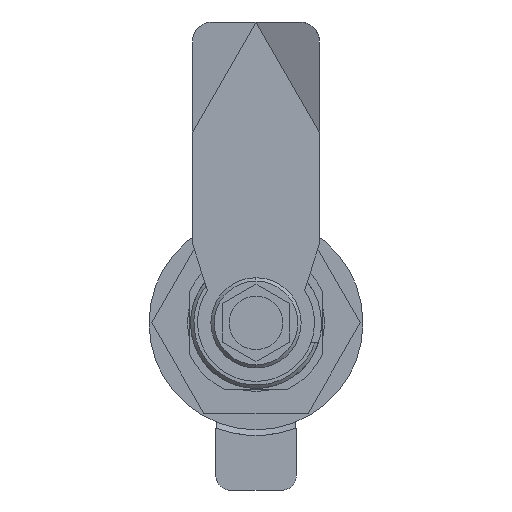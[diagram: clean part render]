
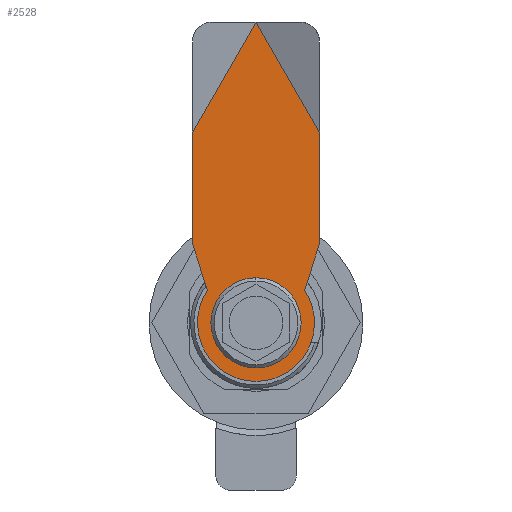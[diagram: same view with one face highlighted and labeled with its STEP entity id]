
A CAD part, front view. The second image highlights one B-rep face of the part: STEP entity #2528.
In plain terms, the highlighted planar face has unit normal (0, -1, 0).
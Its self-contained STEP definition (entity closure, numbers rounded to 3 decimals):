
#86 = CARTESIAN_POINT ( 'NONE',  ( 0., 0., 0. ) ) ;
#217 = EDGE_CURVE ( 'NONE', #2714, #1049, #5584, .T. ) ;
#226 = VECTOR ( 'NONE', #5003, 1000. ) ;
#251 = CARTESIAN_POINT ( 'NONE',  ( -28.546, 0., 9.5 ) ) ;
#266 = VECTOR ( 'NONE', #1517, 1000. ) ;
#276 = DIRECTION ( 'NONE',  ( 0., 0., -1. ) ) ;
#385 = DIRECTION ( 'NONE',  ( 0., 0., 1. ) ) ;
#493 = DIRECTION ( 'NONE',  ( 0., 0., 1. ) ) ;
#504 = CIRCLE ( 'NONE', #1432, 8.75 ) ;
#580 = ORIENTED_EDGE ( 'NONE', *, *, #4797, .T. ) ;
#606 = EDGE_LOOP ( 'NONE', ( #5712, #1058, #2120, #3125 ) ) ;
#641 = ORIENTED_EDGE ( 'NONE', *, *, #3807, .T. ) ;
#713 = ORIENTED_EDGE ( 'NONE', *, *, #4971, .F. ) ;
#722 = VERTEX_POINT ( 'NONE', #1712 ) ;
#725 = AXIS2_PLACEMENT_3D ( 'NONE', #932, #2749, #493 ) ;
#778 = DIRECTION ( 'NONE',  ( 0., 1., 0. ) ) ;
#787 = VERTEX_POINT ( 'NONE', #1027 ) ;
#826 = DIRECTION ( 'NONE',  ( 0., 1., 0. ) ) ;
#830 = CARTESIAN_POINT ( 'NONE',  ( -28.546, 0., -9.5 ) ) ;
#837 = ORIENTED_EDGE ( 'NONE', *, *, #1214, .F. ) ;
#850 = EDGE_CURVE ( 'NONE', #3450, #2714, #5035, .T. ) ;
#861 = DIRECTION ( 'NONE',  ( 0., 0., 1. ) ) ;
#892 = DIRECTION ( 'NONE',  ( 1., 0., 0. ) ) ;
#932 = CARTESIAN_POINT ( 'NONE',  ( 0., 0., 0. ) ) ;
#1007 = CARTESIAN_POINT ( 'NONE',  ( -12.75, 0., 9.5 ) ) ;
#1027 = CARTESIAN_POINT ( 'NONE',  ( 0., 0., -8.75 ) ) ;
#1049 = VERTEX_POINT ( 'NONE', #3026 ) ;
#1054 = CARTESIAN_POINT ( 'NONE',  ( 4., 0., -4. ) ) ;
#1058 = ORIENTED_EDGE ( 'NONE', *, *, #1565, .T. ) ;
#1081 = CARTESIAN_POINT ( 'NONE',  ( -4., 0., -4. ) ) ;
#1107 = EDGE_CURVE ( 'NONE', #3738, #722, #3582, .T. ) ;
#1175 = CARTESIAN_POINT ( 'NONE',  ( 0., 0., 8.75 ) ) ;
#1183 = EDGE_CURVE ( 'NONE', #722, #1931, #2341, .T. ) ;
#1214 = EDGE_CURVE ( 'NONE', #3705, #4836, #504, .T. ) ;
#1244 = VERTEX_POINT ( 'NONE', #4899 ) ;
#1395 = DIRECTION ( 'NONE',  ( 0., 0., 1. ) ) ;
#1416 = LINE ( 'NONE', #3734, #2217 ) ;
#1432 = AXIS2_PLACEMENT_3D ( 'NONE', #86, #826, #385 ) ;
#1456 = CARTESIAN_POINT ( 'NONE',  ( 0., 0., 0. ) ) ;
#1472 = DIRECTION ( 'NONE',  ( 0.951, 0., 0.31 ) ) ;
#1485 = DIRECTION ( 'NONE',  ( 0., 1., 0. ) ) ;
#1517 = DIRECTION ( 'NONE',  ( -1., 0., 0. ) ) ;
#1565 = EDGE_CURVE ( 'NONE', #1931, #3820, #3849, .T. ) ;
#1679 = CARTESIAN_POINT ( 'NONE',  ( -4., 0., 4. ) ) ;
#1696 = VECTOR ( 'NONE', #1472, 1000. ) ;
#1712 = CARTESIAN_POINT ( 'NONE',  ( -4., 0., 4. ) ) ;
#1794 = CARTESIAN_POINT ( 'NONE',  ( -4., 0., 4. ) ) ;
#1837 = CARTESIAN_POINT ( 'NONE',  ( -11.8, 0., -9.5 ) ) ;
#1931 = VERTEX_POINT ( 'NONE', #2740 ) ;
#1952 = LINE ( 'NONE', #1007, #266 ) ;
#2073 = ORIENTED_EDGE ( 'NONE', *, *, #5081, .F. ) ;
#2098 = VERTEX_POINT ( 'NONE', #251 ) ;
#2110 = CARTESIAN_POINT ( 'NONE',  ( 0., 0., 0. ) ) ;
#2120 = ORIENTED_EDGE ( 'NONE', *, *, #5376, .T. ) ;
#2152 = EDGE_CURVE ( 'NONE', #1244, #2098, #4669, .T. ) ;
#2217 = VECTOR ( 'NONE', #3239, 1000. ) ;
#2238 = CIRCLE ( 'NONE', #4846, 8.75 ) ;
#2341 = LINE ( 'NONE', #1794, #5742 ) ;
#2393 = DIRECTION ( 'NONE',  ( 0.866, 0., 0.5 ) ) ;
#2505 = PLANE ( 'NONE',  #3429 ) ;
#2528 = ADVANCED_FACE ( 'NONE', ( #4742, #3066 ), #2505, .F. ) ;
#2575 = VECTOR ( 'NONE', #2393, 1000. ) ;
#2714 = VERTEX_POINT ( 'NONE', #3272 ) ;
#2715 = CIRCLE ( 'NONE', #725, 8.75 ) ;
#2740 = CARTESIAN_POINT ( 'NONE',  ( 4., 0., 4. ) ) ;
#2749 = DIRECTION ( 'NONE',  ( 0., 1., 0. ) ) ;
#2770 = VECTOR ( 'NONE', #861, 1000. ) ;
#3003 = LINE ( 'NONE', #3893, #3999 ) ;
#3026 = CARTESIAN_POINT ( 'NONE',  ( -4.899, 0., -7.25 ) ) ;
#3066 = FACE_OUTER_BOUND ( 'NONE', #5132, .T. ) ;
#3125 = ORIENTED_EDGE ( 'NONE', *, *, #1107, .T. ) ;
#3239 = DIRECTION ( 'NONE',  ( -0.951, 0., 0.31 ) ) ;
#3272 = CARTESIAN_POINT ( 'NONE',  ( -11.8, 0., -9.5 ) ) ;
#3366 = CARTESIAN_POINT ( 'NONE',  ( -4., 0., -4. ) ) ;
#3429 = AXIS2_PLACEMENT_3D ( 'NONE', #2110, #778, #3446 ) ;
#3446 = DIRECTION ( 'NONE',  ( 0., 0., 1. ) ) ;
#3450 = VERTEX_POINT ( 'NONE', #830 ) ;
#3485 = CARTESIAN_POINT ( 'NONE',  ( -11.8, 0., 9.5 ) ) ;
#3525 = VECTOR ( 'NONE', #276, 1000. ) ;
#3582 = LINE ( 'NONE', #1679, #2770 ) ;
#3670 = DIRECTION ( 'NONE',  ( -1., 0., 0. ) ) ;
#3705 = VERTEX_POINT ( 'NONE', #5509 ) ;
#3734 = CARTESIAN_POINT ( 'NONE',  ( -4.899, 0., 7.25 ) ) ;
#3738 = VERTEX_POINT ( 'NONE', #3366 ) ;
#3753 = CARTESIAN_POINT ( 'NONE',  ( -4.899, 0., -7.25 ) ) ;
#3807 = EDGE_CURVE ( 'NONE', #3705, #4509, #1416, .T. ) ;
#3820 = VERTEX_POINT ( 'NONE', #1054 ) ;
#3849 = LINE ( 'NONE', #5636, #3525 ) ;
#3859 = ORIENTED_EDGE ( 'NONE', *, *, #4196, .F. ) ;
#3873 = ORIENTED_EDGE ( 'NONE', *, *, #850, .T. ) ;
#3893 = CARTESIAN_POINT ( 'NONE',  ( -11.25, 0., -19.486 ) ) ;
#3999 = VECTOR ( 'NONE', #4237, 1000. ) ;
#4196 = EDGE_CURVE ( 'NONE', #3450, #1244, #3003, .T. ) ;
#4237 = DIRECTION ( 'NONE',  ( -0.866, 0., 0.5 ) ) ;
#4509 = VERTEX_POINT ( 'NONE', #3485 ) ;
#4669 = LINE ( 'NONE', #5111, #2575 ) ;
#4742 = FACE_BOUND ( 'NONE', #606, .T. ) ;
#4797 = EDGE_CURVE ( 'NONE', #4509, #2098, #1952, .T. ) ;
#4836 = VERTEX_POINT ( 'NONE', #1175 ) ;
#4846 = AXIS2_PLACEMENT_3D ( 'NONE', #1456, #1485, #1395 ) ;
#4863 = ORIENTED_EDGE ( 'NONE', *, *, #2152, .F. ) ;
#4899 = CARTESIAN_POINT ( 'NONE',  ( -45., 0., 0. ) ) ;
#4971 = EDGE_CURVE ( 'NONE', #4836, #787, #2715, .T. ) ;
#4973 = LINE ( 'NONE', #1081, #5606 ) ;
#5003 = DIRECTION ( 'NONE',  ( 1., 0., 0. ) ) ;
#5035 = LINE ( 'NONE', #1837, #226 ) ;
#5081 = EDGE_CURVE ( 'NONE', #787, #1049, #2238, .T. ) ;
#5111 = CARTESIAN_POINT ( 'NONE',  ( -11.25, 0., 19.486 ) ) ;
#5132 = EDGE_LOOP ( 'NONE', ( #580, #4863, #3859, #3873, #5155, #2073, #713, #837, #641 ) ) ;
#5155 = ORIENTED_EDGE ( 'NONE', *, *, #217, .T. ) ;
#5376 = EDGE_CURVE ( 'NONE', #3820, #3738, #4973, .T. ) ;
#5509 = CARTESIAN_POINT ( 'NONE',  ( -4.899, 0., 7.25 ) ) ;
#5584 = LINE ( 'NONE', #3753, #1696 ) ;
#5606 = VECTOR ( 'NONE', #3670, 1000. ) ;
#5636 = CARTESIAN_POINT ( 'NONE',  ( 4., 0., 4. ) ) ;
#5712 = ORIENTED_EDGE ( 'NONE', *, *, #1183, .T. ) ;
#5742 = VECTOR ( 'NONE', #892, 1000. ) ;
